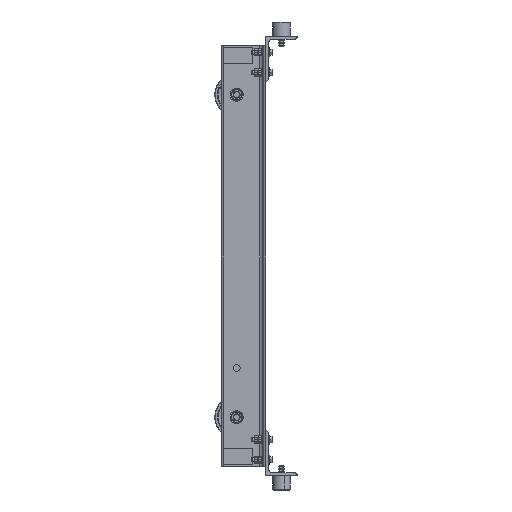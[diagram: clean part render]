
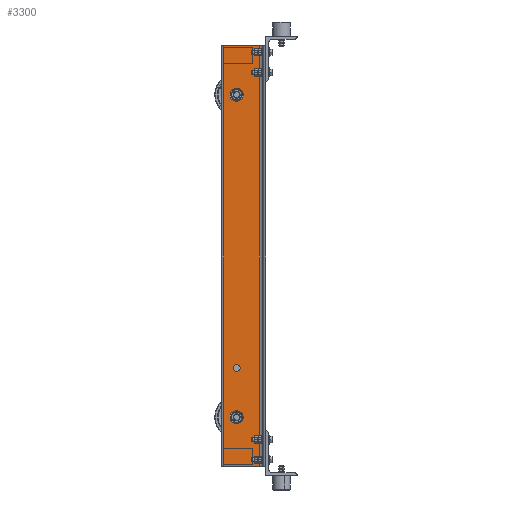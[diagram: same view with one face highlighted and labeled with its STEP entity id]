
A CAD part, left-side view. The second image highlights one B-rep face of the part: STEP entity #3300.
In plain terms, the highlighted planar face has unit normal (-1, 0, 0) as drawn and (1, 0, 0) by its records, which use the part's own axes.
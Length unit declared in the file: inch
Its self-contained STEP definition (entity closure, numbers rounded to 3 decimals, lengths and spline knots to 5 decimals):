
#229 = DIRECTION ( 'NONE',  ( 0., -1., 0. ) ) ;
#282 = VERTEX_POINT ( 'NONE', #7331 ) ;
#324 = CARTESIAN_POINT ( 'NONE',  ( 0.3125, 4.6877, 23.5 ) ) ;
#353 = VERTEX_POINT ( 'NONE', #8330 ) ;
#402 = CARTESIAN_POINT ( 'NONE',  ( 0.3125, 3.25, 12.5 ) ) ;
#403 = ORIENTED_EDGE ( 'NONE', *, *, #3095, .T. ) ;
#559 = DIRECTION ( 'NONE',  ( -1., 0., 0. ) ) ;
#639 = ORIENTED_EDGE ( 'NONE', *, *, #4906, .T. ) ;
#699 = EDGE_LOOP ( 'NONE', ( #10518, #639 ) ) ;
#797 = CARTESIAN_POINT ( 'NONE',  ( 0.3125, 3.25, 17.6225 ) ) ;
#964 = ORIENTED_EDGE ( 'NONE', *, *, #6838, .T. ) ;
#1185 = DIRECTION ( 'NONE',  ( 0., -1., 0. ) ) ;
#1216 = VERTEX_POINT ( 'NONE', #5299 ) ;
#1385 = DIRECTION ( 'NONE',  ( 0., 0., -1. ) ) ;
#1512 = FACE_BOUND ( 'NONE', #699, .T. ) ;
#1518 = EDGE_LOOP ( 'NONE', ( #2506, #3904 ) ) ;
#1574 = FACE_OUTER_BOUND ( 'NONE', #8560, .T. ) ;
#1764 = CARTESIAN_POINT ( 'NONE',  ( 0.3125, 0.75, 23.5 ) ) ;
#2506 = ORIENTED_EDGE ( 'NONE', *, *, #3234, .T. ) ;
#2520 = AXIS2_PLACEMENT_3D ( 'NONE', #5440, #559, #10208 ) ;
#2579 = DIRECTION ( 'NONE',  ( -1., 0., 0. ) ) ;
#2582 = DIRECTION ( 'NONE',  ( 0., -1., 0. ) ) ;
#2974 = EDGE_CURVE ( 'NONE', #10229, #1216, #12340, .T. ) ;
#3095 = EDGE_CURVE ( 'NONE', #5445, #11320, #7930, .T. ) ;
#3234 = EDGE_CURVE ( 'NONE', #282, #6348, #4340, .T. ) ;
#3270 = CARTESIAN_POINT ( 'NONE',  ( 0.3125, 4.6877, -23.5 ) ) ;
#3300 = ADVANCED_FACE ( 'NONE', ( #11407, #10154, #1512, #1574 ), #5372, .F. ) ;
#3366 = LINE ( 'NONE', #10173, #6470 ) ;
#3523 = CARTESIAN_POINT ( 'NONE',  ( 0.3125, 4.6877, 23.5 ) ) ;
#3552 = DIRECTION ( 'NONE',  ( 0., 0., -1. ) ) ;
#3711 = VERTEX_POINT ( 'NONE', #3523 ) ;
#3904 = ORIENTED_EDGE ( 'NONE', *, *, #8125, .T. ) ;
#4311 = CARTESIAN_POINT ( 'NONE',  ( 0.3125, 0.75, 23.5 ) ) ;
#4340 = CIRCLE ( 'NONE', #7735, 0.3775 ) ;
#4424 = CARTESIAN_POINT ( 'NONE',  ( 0.3125, 3.25, 12.1225 ) ) ;
#4603 = DIRECTION ( 'NONE',  ( 0., -1., 0. ) ) ;
#4660 = ORIENTED_EDGE ( 'NONE', *, *, #9682, .F. ) ;
#4687 = CARTESIAN_POINT ( 'NONE',  ( 0.3125, 3.25, -18.3775 ) ) ;
#4906 = EDGE_CURVE ( 'NONE', #8348, #353, #6421, .T. ) ;
#5037 = VERTEX_POINT ( 'NONE', #3270 ) ;
#5087 = DIRECTION ( 'NONE',  ( -1., 0., 0. ) ) ;
#5127 = CARTESIAN_POINT ( 'NONE',  ( 0.3125, 3.25, -18. ) ) ;
#5185 = DIRECTION ( 'NONE',  ( 0., 1., 0. ) ) ;
#5299 = CARTESIAN_POINT ( 'NONE',  ( 0.3125, 3.25, 12.8775 ) ) ;
#5372 = PLANE ( 'NONE',  #2520 ) ;
#5440 = CARTESIAN_POINT ( 'NONE',  ( 0.3125, 4.6877, 23.5 ) ) ;
#5445 = VERTEX_POINT ( 'NONE', #1764 ) ;
#5578 = LINE ( 'NONE', #8265, #6643 ) ;
#5611 = EDGE_CURVE ( 'NONE', #353, #8348, #6081, .T. ) ;
#5665 = ORIENTED_EDGE ( 'NONE', *, *, #2974, .T. ) ;
#5843 = ORIENTED_EDGE ( 'NONE', *, *, #10048, .F. ) ;
#5946 = DIRECTION ( 'NONE',  ( -1., 0., 0. ) ) ;
#6081 = CIRCLE ( 'NONE', #11111, 0.3775 ) ;
#6181 = DIRECTION ( 'NONE',  ( -1., 0., 0. ) ) ;
#6311 = CARTESIAN_POINT ( 'NONE',  ( 0.3125, 3.25, -18. ) ) ;
#6348 = VERTEX_POINT ( 'NONE', #797 ) ;
#6421 = CIRCLE ( 'NONE', #6812, 0.3775 ) ;
#6470 = VECTOR ( 'NONE', #8134, 39.37008 ) ;
#6643 = VECTOR ( 'NONE', #3552, 39.37008 ) ;
#6812 = AXIS2_PLACEMENT_3D ( 'NONE', #6311, #2579, #4603 ) ;
#6838 = EDGE_CURVE ( 'NONE', #1216, #10229, #11009, .T. ) ;
#6890 = CARTESIAN_POINT ( 'NONE',  ( 0.3125, 3.25, 12.5 ) ) ;
#6912 = AXIS2_PLACEMENT_3D ( 'NONE', #6890, #5946, #9777 ) ;
#7027 = EDGE_LOOP ( 'NONE', ( #964, #5665 ) ) ;
#7145 = EDGE_CURVE ( 'NONE', #11320, #5037, #3366, .T. ) ;
#7331 = CARTESIAN_POINT ( 'NONE',  ( 0.3125, 3.25, 18.3775 ) ) ;
#7735 = AXIS2_PLACEMENT_3D ( 'NONE', #10401, #11214, #2582 ) ;
#7930 = LINE ( 'NONE', #4311, #11940 ) ;
#7970 = AXIS2_PLACEMENT_3D ( 'NONE', #402, #5087, #229 ) ;
#8125 = EDGE_CURVE ( 'NONE', #6348, #282, #10436, .T. ) ;
#8129 = CARTESIAN_POINT ( 'NONE',  ( 0.3125, 3.25, 18. ) ) ;
#8134 = DIRECTION ( 'NONE',  ( 0., 1., 0. ) ) ;
#8265 = CARTESIAN_POINT ( 'NONE',  ( 0.3125, 4.6877, 23.5 ) ) ;
#8330 = CARTESIAN_POINT ( 'NONE',  ( 0.3125, 3.25, -17.6225 ) ) ;
#8348 = VERTEX_POINT ( 'NONE', #4687 ) ;
#8560 = EDGE_LOOP ( 'NONE', ( #11861, #4660, #5843, #403 ) ) ;
#8903 = DIRECTION ( 'NONE',  ( -1., 0., 0. ) ) ;
#9682 = EDGE_CURVE ( 'NONE', #3711, #5037, #5578, .T. ) ;
#9777 = DIRECTION ( 'NONE',  ( 0., -1., 0. ) ) ;
#10048 = EDGE_CURVE ( 'NONE', #5445, #3711, #10923, .T. ) ;
#10154 = FACE_BOUND ( 'NONE', #7027, .T. ) ;
#10173 = CARTESIAN_POINT ( 'NONE',  ( 0.3125, 4.6877, -23.5 ) ) ;
#10208 = DIRECTION ( 'NONE',  ( 0., -1., 0. ) ) ;
#10229 = VERTEX_POINT ( 'NONE', #4424 ) ;
#10232 = AXIS2_PLACEMENT_3D ( 'NONE', #8129, #8903, #11929 ) ;
#10401 = CARTESIAN_POINT ( 'NONE',  ( 0.3125, 3.25, 18. ) ) ;
#10436 = CIRCLE ( 'NONE', #10232, 0.3775 ) ;
#10518 = ORIENTED_EDGE ( 'NONE', *, *, #5611, .T. ) ;
#10923 = LINE ( 'NONE', #324, #11881 ) ;
#11009 = CIRCLE ( 'NONE', #7970, 0.3775 ) ;
#11111 = AXIS2_PLACEMENT_3D ( 'NONE', #5127, #6181, #1185 ) ;
#11214 = DIRECTION ( 'NONE',  ( -1., 0., 0. ) ) ;
#11320 = VERTEX_POINT ( 'NONE', #11440 ) ;
#11407 = FACE_BOUND ( 'NONE', #1518, .T. ) ;
#11440 = CARTESIAN_POINT ( 'NONE',  ( 0.3125, 0.75, -23.5 ) ) ;
#11861 = ORIENTED_EDGE ( 'NONE', *, *, #7145, .T. ) ;
#11881 = VECTOR ( 'NONE', #5185, 39.37008 ) ;
#11929 = DIRECTION ( 'NONE',  ( 0., -1., 0. ) ) ;
#11940 = VECTOR ( 'NONE', #1385, 39.37008 ) ;
#12340 = CIRCLE ( 'NONE', #6912, 0.3775 ) ;
